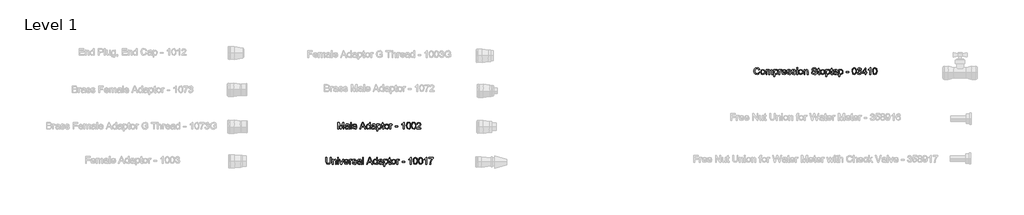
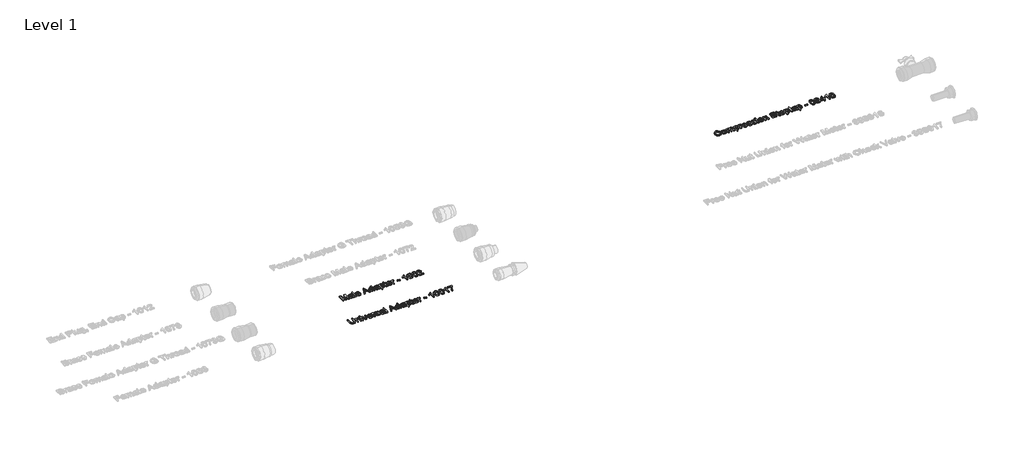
# One storey, part 11 of 13: 3 proxies.
"""IFC4 building model written with IfcOpenShell, lengths in millimetres."""

from ifc_helpers import new_model, si_unit, origin, origin_with_axes, place, context, project, spatial, polyline, outline, extrude, element, save

model = new_model("IFC4")

# Units and contexts
model_context = context("Model", 3, world=origin())
ifc_project = project(units=[si_unit("LENGTHUNIT", "METRE", prefix="MILLI")], contexts=[model_context])

# Site, building, storey
site = spatial("IfcSite", under=ifc_project)
building = spatial("IfcBuilding", under=site)
storey = spatial("IfcBuildingStorey", under=building, Name="Level 1", Elevation=0.0)

# Proxies
placement = place(None, origin())
element("IfcBuildingElementProxy", 1, Name="30 mm Arial", ObjectType="30 mm Arial", at=placement, inside=storey, context=model_context, shape_type="SweptSolid", body=[
    extrude(outline(polyline([(18620.8227945, 4850.7884236), (18624.5151022, 4849.8365005), (18620.1376983, 4842.3905871), (18612.4069291, 4839.8268851), (18604.7230349, 4841.766789), (18600.2158233, 4847.3845775), (18598.6689483, 4855.2812121), (18600.4177464, 4863.3076544), (18605.3901022, 4868.5107794), (18612.486256, 4870.2884236), (18619.8816887, 4867.9879428), (18624.0535637, 4861.5119813), (18620.361256, 4860.6321736), (18617.3324099, 4865.1718371), (18612.3420253, 4866.5961159), (18606.565583, 4865.016789), (18603.3023618, 4860.7764044), (18602.361256, 4855.2884236), (18603.4754387, 4848.9278467), (18606.9441887, 4844.8641448), (18612.0391407, 4843.5191928), (18617.689381, 4845.3509236), (18620.8227945, 4850.7884236)])), origin_with_axes(), (0.0, 0.0, 1.0), 5.0),
    extrude(outline(polyline([(18628.2074099, 4851.1345775), (18631.4021214, 4860.0408275), (18637.9069291, 4862.4422698), (18644.8840926, 4859.5179909), (18647.5920253, 4851.4374621), (18646.3949099, 4844.8677505), (18642.908131, 4841.1502025), (18637.9069291, 4839.8268851), (18630.8864964, 4842.7403467), (18628.2074099, 4851.1345775)]), holes=[polyline([(18631.8997176, 4851.141789), (18633.6088522, 4845.4194332), (18637.9069291, 4843.5191928), (18642.190583, 4845.4302505), (18643.8997176, 4851.2571736), (18642.1797657, 4856.8497217), (18637.9069291, 4858.7499621), (18633.6088522, 4856.8569332), (18631.8997176, 4851.141789)])]), origin_with_axes(), (0.0, 0.0, 1.0), 5.0),
    extrude(outline(polyline([(18651.7458714, 4840.2884236), (18651.7458714, 4861.9807313), (18655.4381791, 4861.9807313), (18655.4381791, 4858.4110198), (18657.9766407, 4861.3352986), (18661.5896214, 4862.4422698), (18665.2891407, 4861.313664), (18667.3227945, 4858.1514044), (18673.8420253, 4862.4422698), (18678.6701503, 4860.657414), (18680.361256, 4855.1586159), (18680.361256, 4840.2884236), (18676.6689483, 4840.2884236), (18676.6689483, 4853.5720775), (18676.3264003, 4856.6550101), (18675.0860157, 4858.173039), (18672.9766407, 4858.7499621), (18669.345631, 4857.2715967), (18667.8997176, 4852.5336159), (18667.8997176, 4840.2884236), (18664.2074099, 4840.2884236), (18664.2074099, 4853.9831351), (18663.3528426, 4857.5600582), (18660.5511599, 4858.7499621), (18657.8179868, 4857.9566928), (18656.0006791, 4855.6345775), (18655.4381791, 4851.2283275), (18655.4381791, 4840.2884236), (18651.7458714, 4840.2884236)])), origin_with_axes(), (0.0, 0.0, 1.0), 5.0),
    extrude(outline(polyline([(18685.8997176, 4831.9807313), (18685.8997176, 4861.9807313), (18689.5920253, 4861.9807313), (18689.5920253, 4858.360539), (18692.1449099, 4861.4218371), (18695.5920253, 4862.4422698), (18700.2723137, 4861.0143851), (18703.330006, 4856.9903467), (18704.361256, 4851.3004428), (18703.1965926, 4845.3184717), (18699.814381, 4841.2439525), (18695.1449099, 4839.8268851), (18691.9321695, 4840.7752025), (18689.5920253, 4843.173039), (18689.5920253, 4831.9807313), (18685.8997176, 4831.9807313)]), holes=[polyline([(18689.5920253, 4850.9615005), (18691.189381, 4845.3365005), (18695.065583, 4843.5191928), (18699.0211118, 4845.4014044), (18700.6689483, 4851.235539), (18699.0607753, 4856.8749621), (18695.2170253, 4858.7499621), (18691.2975541, 4856.7559717), (18689.5920253, 4850.9615005)])]), origin_with_axes(), (0.0, 0.0, 1.0), 5.0),
    extrude(outline(polyline([(18708.5151022, 4840.2884236), (18708.5151022, 4861.9807313), (18711.7458714, 4861.9807313), (18711.7458714, 4858.7715967), (18714.0391407, 4861.7283275), (18716.346833, 4862.4422698), (18720.0535637, 4861.3028467), (18718.8203907, 4857.9927505), (18716.2242368, 4858.7499621), (18714.1364964, 4858.0215967), (18712.8059676, 4856.0023659), (18712.2074099, 4851.6898659), (18712.2074099, 4840.2884236), (18708.5151022, 4840.2884236)])), origin_with_axes(), (0.0, 0.0, 1.0), 5.0),
    extrude(outline(polyline([(18737.548756, 4846.7499621), (18741.1689483, 4846.2884236), (18737.783131, 4841.5215967), (18731.4766407, 4839.8268851), (18723.8107753, 4842.751164), (18720.9766407, 4850.954289), (18723.8396214, 4859.4278467), (18731.267506, 4862.4422698), (18738.4826503, 4859.4350582), (18741.284333, 4850.9759236), (18724.6689483, 4849.9807313), (18726.7927464, 4845.1850582), (18731.548756, 4843.5191928), (18735.1689483, 4844.2908275), (18737.548756, 4846.7499621)]), holes=[polyline([(18724.6689483, 4853.673039), (18737.5920253, 4853.673039), (18736.1136599, 4857.0191928), (18731.253083, 4858.7499621), (18726.706208, 4857.3689525), (18724.6689483, 4853.673039)])]), origin_with_axes(), (0.0, 0.0, 1.0), 5.0),
    extrude(outline(polyline([(18743.5920253, 4846.7499621), (18747.284333, 4847.2115005), (18748.9934676, 4844.4711159), (18752.909333, 4843.5191928), (18756.673756, 4844.391789), (18757.8997176, 4846.4398659), (18756.6665445, 4848.0985198), (18752.8660637, 4849.1514044), (18747.3059676, 4850.9578948), (18744.8792849, 4853.0672698), (18744.0535637, 4856.0456351), (18744.7170253, 4858.7968371), (18746.5271214, 4860.8990005), (18748.8744772, 4861.9915486), (18752.0511599, 4862.4422698), (18756.5439483, 4861.7175101), (18759.3997176, 4859.7559717), (18760.6689483, 4856.4422698), (18756.9766407, 4855.9807313), (18755.5884195, 4858.0179909), (18752.3396214, 4858.7499621), (18748.8059676, 4858.0504428), (18747.7458714, 4856.4206351), (18749.5631791, 4854.5312121), (18752.7434676, 4853.7451544), (18758.1629387, 4852.0071736), (18760.6797657, 4850.0384236), (18761.5920253, 4846.829289), (18760.5211118, 4843.2956351), (18757.4309676, 4840.7319332), (18752.8588522, 4839.8268851), (18746.4189483, 4841.5720775), (18743.5920253, 4846.7499621)])), origin_with_axes(), (0.0, 0.0, 1.0), 5.0),
    extrude(outline(polyline([(18764.361256, 4846.7499621), (18768.0535637, 4847.2115005), (18769.7626983, 4844.4711159), (18773.6785637, 4843.5191928), (18777.4429868, 4844.391789), (18778.6689483, 4846.4398659), (18777.4357753, 4848.0985198), (18773.6352945, 4849.1514044), (18768.0751983, 4850.9578948), (18765.6485157, 4853.0672698), (18764.8227945, 4856.0456351), (18765.486256, 4858.7968371), (18767.2963522, 4860.8990005), (18769.643708, 4861.9915486), (18772.8203907, 4862.4422698), (18777.3131791, 4861.7175101), (18780.1689483, 4859.7559717), (18781.4381791, 4856.4422698), (18777.7458714, 4855.9807313), (18776.3576503, 4858.0179909), (18773.1088522, 4858.7499621), (18769.5751983, 4858.0504428), (18768.5151022, 4856.4206351), (18770.3324099, 4854.5312121), (18773.5126983, 4853.7451544), (18778.9321695, 4852.0071736), (18781.4489964, 4850.0384236), (18782.361256, 4846.829289), (18781.2903426, 4843.2956351), (18778.2001983, 4840.7319332), (18773.628083, 4839.8268851), (18767.1881791, 4841.5720775), (18764.361256, 4846.7499621)])), origin_with_axes(), (0.0, 0.0, 1.0), 5.0),
    extrude(outline(polyline([(18786.5151022, 4866.1345775), (18786.5151022, 4869.8268851), (18790.2074099, 4869.8268851), (18790.2074099, 4866.1345775), (18786.5151022, 4866.1345775)])), origin_with_axes(), (0.0, 0.0, 1.0), 5.0),
    extrude(outline(polyline([(18786.5151022, 4840.2884236), (18786.5151022, 4861.9807313), (18790.2074099, 4861.9807313), (18790.2074099, 4840.2884236), (18786.5151022, 4840.2884236)])), origin_with_axes(), (0.0, 0.0, 1.0), 5.0),
    extrude(outline(polyline([(18794.8227945, 4851.1345775), (18798.017506, 4860.0408275), (18804.5223137, 4862.4422698), (18811.4994772, 4859.5179909), (18814.2074099, 4851.4374621), (18813.0102945, 4844.8677505), (18809.5235157, 4841.1502025), (18804.5223137, 4839.8268851), (18797.501881, 4842.7403467), (18794.8227945, 4851.1345775)]), holes=[polyline([(18798.5151022, 4851.141789), (18800.2242368, 4845.4194332), (18804.5223137, 4843.5191928), (18808.8059676, 4845.4302505), (18810.5151022, 4851.2571736), (18808.7951503, 4856.8497217), (18804.5223137, 4858.7499621), (18800.2242368, 4856.8569332), (18798.5151022, 4851.141789)])]), origin_with_axes(), (0.0, 0.0, 1.0), 5.0),
    extrude(outline(polyline([(18818.361256, 4840.2884236), (18818.361256, 4861.9807313), (18822.0535637, 4861.9807313), (18822.0535637, 4858.9518851), (18828.7314483, 4862.4422698), (18832.2182272, 4861.7391448), (18834.5980349, 4859.8929909), (18835.705006, 4857.1778467), (18835.8997176, 4853.6081351), (18835.8997176, 4840.2884236), (18832.2074099, 4840.2884236), (18832.2074099, 4853.110539), (18831.7819291, 4856.3773659), (18830.2783233, 4858.1045294), (18827.7434676, 4858.7499621), (18823.737458, 4857.3004428), (18822.0535637, 4851.798039), (18822.0535637, 4840.2884236), (18818.361256, 4840.2884236)])), origin_with_axes(), (0.0, 0.0, 1.0), 5.0),
    extrude(outline(polyline([(18851.5920253, 4850.4422698), (18855.284333, 4850.4422698), (18856.4742368, 4846.7463563), (18859.3804868, 4844.4098178), (18863.8083714, 4843.5191928), (18867.6665445, 4844.1934717), (18870.158131, 4846.0468371), (18870.9766407, 4848.5240005), (18870.3636599, 4850.8280871), (18867.8540445, 4852.5047698), (18862.4778426, 4853.9146255), (18856.690583, 4855.735539), (18853.549958, 4858.4831351), (18852.5151022, 4862.1538082), (18853.7951503, 4866.3328948), (18857.534333, 4869.282414), (18863.0078907, 4870.2884236), (18868.8492368, 4869.235539), (18872.7434676, 4866.141789), (18874.2074099, 4861.5191928), (18870.5151022, 4861.5191928), (18868.423756, 4865.3124621), (18863.1521214, 4866.5961159), (18857.8660637, 4865.3268851), (18856.2074099, 4862.2619813), (18857.3828907, 4859.7018851), (18863.4117368, 4857.6393851), (18869.9453907, 4855.7860198), (18873.518708, 4852.7932313), (18874.6689483, 4848.6177505), (18873.345631, 4844.2006832), (18869.5379387, 4840.9771255), (18863.9526022, 4839.8268851), (18857.3576503, 4841.0672698), (18853.1857753, 4844.8028467), (18851.5920253, 4850.4422698)])), origin_with_axes(), (0.0, 0.0, 1.0), 5.0),
    extrude(outline(polyline([(18887.5920253, 4843.3677505), (18888.0535637, 4840.1802505), (18885.2915445, 4839.8268851), (18882.1977945, 4840.4398659), (18880.6545253, 4842.048039), (18880.2074099, 4846.2379428), (18880.2074099, 4858.2884236), (18877.4381791, 4858.2884236), (18877.4381791, 4861.9807313), (18880.2074099, 4861.9807313), (18880.2074099, 4867.2523659), (18883.8997176, 4869.423039), (18883.8997176, 4861.9807313), (18887.5920253, 4861.9807313), (18887.5920253, 4858.2884236), (18883.8997176, 4858.2884236), (18883.8997176, 4846.3461159), (18884.0944291, 4844.4422698), (18887.5920253, 4843.3677505)])), origin_with_axes(), (0.0, 0.0, 1.0), 5.0),
    extrude(outline(polyline([(18890.361256, 4851.1345775), (18893.5559676, 4860.0408275), (18900.0607753, 4862.4422698), (18907.0379387, 4859.5179909), (18909.7458714, 4851.4374621), (18908.548756, 4844.8677505), (18905.0619772, 4841.1502025), (18900.0607753, 4839.8268851), (18893.0403426, 4842.7403467), (18890.361256, 4851.1345775)]), holes=[polyline([(18894.0535637, 4851.141789), (18895.7626983, 4845.4194332), (18900.0607753, 4843.5191928), (18904.3444291, 4845.4302505), (18906.0535637, 4851.2571736), (18904.3336118, 4856.8497217), (18900.0607753, 4858.7499621), (18895.7626983, 4856.8569332), (18894.0535637, 4851.141789)])]), origin_with_axes(), (0.0, 0.0, 1.0), 5.0),
    extrude(outline(polyline([(18913.8997176, 4831.9807313), (18913.8997176, 4861.9807313), (18917.5920253, 4861.9807313), (18917.5920253, 4858.360539), (18920.1449099, 4861.4218371), (18923.5920253, 4862.4422698), (18928.2723137, 4861.0143851), (18931.330006, 4856.9903467), (18932.361256, 4851.3004428), (18931.1965926, 4845.3184717), (18927.814381, 4841.2439525), (18923.1449099, 4839.8268851), (18919.9321695, 4840.7752025), (18917.5920253, 4843.173039), (18917.5920253, 4831.9807313), (18913.8997176, 4831.9807313)]), holes=[polyline([(18917.5920253, 4850.9615005), (18919.189381, 4845.3365005), (18923.065583, 4843.5191928), (18927.0211118, 4845.4014044), (18928.6689483, 4851.235539), (18927.0607753, 4856.8749621), (18923.2170253, 4858.7499621), (18919.2975541, 4856.7559717), (18917.5920253, 4850.9615005)])]), origin_with_axes(), (0.0, 0.0, 1.0), 5.0),
    extrude(outline(polyline([(18944.361256, 4843.3677505), (18944.8227945, 4840.1802505), (18942.0607753, 4839.8268851), (18938.9670253, 4840.4398659), (18937.423756, 4842.048039), (18936.9766407, 4846.2379428), (18936.9766407, 4858.2884236), (18934.2074099, 4858.2884236), (18934.2074099, 4861.9807313), (18936.9766407, 4861.9807313), (18936.9766407, 4867.2523659), (18940.6689483, 4869.423039), (18940.6689483, 4861.9807313), (18944.361256, 4861.9807313), (18944.361256, 4858.2884236), (18940.6689483, 4858.2884236), (18940.6689483, 4846.3461159), (18940.8636599, 4844.4422698), (18944.361256, 4843.3677505)])), origin_with_axes(), (0.0, 0.0, 1.0), 5.0),
    extrude(outline(polyline([(18961.8997176, 4843.0576544), (18958.3191887, 4840.5552505), (18954.3636599, 4839.8268851), (18949.001881, 4841.579289), (18947.1304868, 4846.0576544), (18947.8372176, 4848.9783275), (18949.6941887, 4851.0985198), (18952.2795253, 4852.3100582), (18955.4742368, 4852.8653467), (18961.878083, 4854.1345775), (18960.8828907, 4857.6826544), (18956.8011599, 4858.7499621), (18953.065583, 4858.0396255), (18951.284333, 4855.5191928), (18947.5920253, 4855.9807313), (18949.189381, 4859.5865005), (18952.4057272, 4861.6994813), (18957.2771214, 4862.4422698), (18961.751881, 4861.7860198), (18964.2795253, 4860.1381832), (18965.4117368, 4857.6321736), (18965.5920253, 4854.4014044), (18965.5920253, 4849.8076544), (18965.7795253, 4843.3929909), (18966.5151022, 4840.2884236), (18962.8227945, 4840.2884236), (18961.8997176, 4843.0576544)]), holes=[polyline([(18961.8889003, 4849.9194332), (18955.9429868, 4849.3100582), (18952.7663041, 4848.7115005), (18951.3276022, 4847.7379428), (18951.9225541, 4844.3196736), (18955.1497176, 4843.5191928), (18958.8852945, 4844.4026063), (18961.2939483, 4846.5408275), (18961.8889003, 4849.9194332)])]), origin_with_axes(), (0.0, 0.0, 1.0), 5.0),
    extrude(outline(polyline([(18970.6689483, 4831.9807313), (18970.6689483, 4861.9807313), (18974.361256, 4861.9807313), (18974.361256, 4858.360539), (18976.9141407, 4861.4218371), (18980.361256, 4862.4422698), (18985.0415445, 4861.0143851), (18988.0992368, 4856.9903467), (18989.1304868, 4851.3004428), (18987.9658233, 4845.3184717), (18984.5836118, 4841.2439525), (18979.9141407, 4839.8268851), (18976.7014003, 4840.7752025), (18974.361256, 4843.173039), (18974.361256, 4831.9807313), (18970.6689483, 4831.9807313)]), holes=[polyline([(18974.361256, 4850.9615005), (18975.9586118, 4845.3365005), (18979.8348137, 4843.5191928), (18983.7903426, 4845.4014044), (18985.4381791, 4851.235539), (18983.830006, 4856.8749621), (18979.986256, 4858.7499621), (18976.0667849, 4856.7559717), (18974.361256, 4850.9615005)])]), origin_with_axes(), (0.0, 0.0, 1.0), 5.0),
    extrude(outline(polyline([(19002.9766407, 4849.0576544), (19002.9766407, 4852.7499621), (19014.5151022, 4852.7499621), (19014.5151022, 4849.0576544), (19002.9766407, 4849.0576544)])), origin_with_axes(), (0.0, 0.0, 1.0), 5.0),
    extrude(outline(polyline([(19029.284333, 4854.8196736), (19030.3696695, 4863.3184717), (19033.5932272, 4868.2187121), (19038.9766407, 4869.8268851), (19043.2891407, 4868.8749621), (19046.267506, 4866.1309717), (19047.9982753, 4861.7607794), (19048.6689483, 4854.8196736), (19047.5944291, 4846.3569332), (19044.3816887, 4841.4458755), (19038.9766407, 4839.8268851), (19032.2266407, 4842.6393851), (19029.284333, 4854.8196736)]), holes=[polyline([(19032.9766407, 4854.8268851), (19034.7074099, 4845.657414), (19038.9766407, 4843.5191928), (19043.2458714, 4845.6646255), (19044.9766407, 4854.8268851), (19043.3035637, 4863.891789), (19038.9333714, 4866.1345775), (19034.7651022, 4864.1586159), (19032.9766407, 4854.8268851)])]), origin_with_axes(), (0.0, 0.0, 1.0), 5.0),
    extrude(outline(polyline([(19051.8997176, 4848.1345775), (19055.5920253, 4848.5961159), (19057.6292849, 4844.7090967), (19061.440583, 4843.5191928), (19065.9261599, 4845.1562121), (19067.5920253, 4849.2090967), (19065.940583, 4853.0276063), (19061.7434676, 4854.5384236), (19059.1545253, 4854.1345775), (19059.565583, 4857.8268851), (19064.346833, 4858.8437121), (19066.2074099, 4862.1033275), (19064.8588522, 4864.9915486), (19061.3828907, 4866.1345775), (19057.8636599, 4864.9807313), (19056.0535637, 4861.5191928), (19052.361256, 4861.9807313), (19055.3828907, 4867.7715967), (19061.253083, 4869.8268851), (19065.706208, 4868.813664), (19068.8215926, 4866.0444332), (19069.8997176, 4862.3196736), (19068.8756791, 4858.9158275), (19065.846833, 4856.4711159), (19069.8708714, 4853.9470775), (19071.284333, 4849.1441928), (19068.4574099, 4842.5384236), (19061.3107753, 4839.8268851), (19054.8348137, 4842.141789), (19051.8997176, 4848.1345775)])), origin_with_axes(), (0.0, 0.0, 1.0), 5.0),
    extrude(outline(polyline([(19086.5151022, 4840.2884236), (19086.5151022, 4847.2115005), (19073.1304868, 4847.2115005), (19073.1304868, 4850.9038082), (19087.4381791, 4869.3653467), (19090.2074099, 4869.3653467), (19090.2074099, 4850.9038082), (19093.8997176, 4850.9038082), (19093.8997176, 4847.2115005), (19090.2074099, 4847.2115005), (19090.2074099, 4840.2884236), (19086.5151022, 4840.2884236)]), holes=[polyline([(19086.5151022, 4850.9038082), (19086.5151022, 4862.3124621), (19077.673756, 4850.9038082), (19086.5151022, 4850.9038082)])]), origin_with_axes(), (0.0, 0.0, 1.0), 5.0),
    extrude(outline(polyline([(19110.9766407, 4840.2884236), (19107.284333, 4840.2884236), (19107.284333, 4863.3076544), (19103.7867368, 4860.8160678), (19099.8997176, 4858.9518851), (19099.8997176, 4862.4422698), (19105.3119772, 4865.8965967), (19108.596833, 4869.8268851), (19110.9766407, 4869.8268851), (19110.9766407, 4840.2884236)])), origin_with_axes(), (0.0, 0.0, 1.0), 5.0),
    extrude(outline(polyline([(19119.7458714, 4854.8196736), (19120.831208, 4863.3184717), (19124.0547657, 4868.2187121), (19129.4381791, 4869.8268851), (19133.7506791, 4868.8749621), (19136.7290445, 4866.1309717), (19138.4598137, 4861.7607794), (19139.1304868, 4854.8196736), (19138.0559676, 4846.3569332), (19134.8432272, 4841.4458755), (19129.4381791, 4839.8268851), (19122.6881791, 4842.6393851), (19119.7458714, 4854.8196736)]), holes=[polyline([(19123.4381791, 4854.8268851), (19125.1689483, 4845.657414), (19129.4381791, 4843.5191928), (19133.7074099, 4845.6646255), (19135.4381791, 4854.8268851), (19133.7651022, 4863.891789), (19129.3949099, 4866.1345775), (19125.2266407, 4864.1586159), (19123.4381791, 4854.8268851)])]), origin_with_axes(), (0.0, 0.0, 1.0), 5.0),
])
element("IfcBuildingElementProxy", 2, Name="30 mm Arial", ObjectType="30 mm Arial", at=placement, inside=storey, context=model_context, shape_type="SweptSolid", body=[
    extrude(outline(polyline([(16771.7475855, 4600.4203685), (16771.7475855, 4629.9588301), (16778.1009508, 4629.9588301), (16784.1442201, 4609.1391185), (16785.3629701, 4604.7905608), (16786.6826816, 4609.4996954), (16792.6249893, 4629.9588301), (16798.9783547, 4629.9588301), (16798.9783547, 4600.4203685), (16795.286047, 4600.4203685), (16795.286047, 4626.2665224), (16787.8653739, 4600.4203685), (16782.8605662, 4600.4203685), (16775.4398932, 4626.2665224), (16775.4398932, 4600.4203685), (16771.7475855, 4600.4203685)])), origin_with_axes(), (0.0, 0.0, 1.0), 5.0),
    extrude(outline(polyline([(16818.8245085, 4603.1895993), (16815.2439797, 4600.6871954), (16811.2884508, 4599.9588301), (16805.926672, 4601.7112339), (16804.0552778, 4606.1895993), (16804.7620085, 4609.1102724), (16806.6189797, 4611.2304647), (16809.2043162, 4612.4420031), (16812.3990278, 4612.9972916), (16818.8028739, 4614.2665224), (16817.8076816, 4617.8145993), (16813.7259508, 4618.881907), (16809.9903739, 4618.1715704), (16808.2091239, 4615.6511378), (16804.5168162, 4616.1126762), (16806.114172, 4619.7184454), (16809.3305182, 4621.8314262), (16814.2019124, 4622.5742147), (16818.676672, 4621.9179647), (16821.2043162, 4620.2701281), (16822.3365278, 4617.7641185), (16822.5168162, 4614.5333493), (16822.5168162, 4609.9395993), (16822.7043162, 4603.5249358), (16823.4398932, 4600.4203685), (16819.7475855, 4600.4203685), (16818.8245085, 4603.1895993)]), holes=[polyline([(16818.8136912, 4610.0513781), (16812.8677778, 4609.4420031), (16809.6910951, 4608.8434454), (16808.2523932, 4607.8698878), (16808.8473451, 4604.4516185), (16812.0745085, 4603.6511378), (16815.8100855, 4604.5345512), (16818.2187393, 4606.6727724), (16818.8136912, 4610.0513781)])]), origin_with_axes(), (0.0, 0.0, 1.0), 5.0),
    extrude(outline(polyline([(16827.5937393, 4600.4203685), (16827.5937393, 4629.9588301), (16831.286047, 4629.9588301), (16831.286047, 4600.4203685), (16827.5937393, 4600.4203685)])), origin_with_axes(), (0.0, 0.0, 1.0), 5.0),
    extrude(outline(polyline([(16852.0120085, 4606.881907), (16855.6322008, 4606.4203685), (16852.2463835, 4601.6535416), (16845.9398932, 4599.9588301), (16838.2740278, 4602.8831089), (16835.4398932, 4611.0862339), (16838.3028739, 4619.5597916), (16845.7307585, 4622.5742147), (16852.9459028, 4619.5670031), (16855.7475855, 4611.1078685), (16839.1322008, 4610.1126762), (16841.2559989, 4605.3170031), (16846.0120085, 4603.6511378), (16849.6322008, 4604.4227724), (16852.0120085, 4606.881907)]), holes=[polyline([(16839.1322008, 4613.8049839), (16852.0552778, 4613.8049839), (16850.5769124, 4617.1511378), (16845.7163355, 4618.881907), (16841.1694605, 4617.5008974), (16839.1322008, 4613.8049839)])]), origin_with_axes(), (0.0, 0.0, 1.0), 5.0),
    extrude(outline(polyline([(16867.9999893, 4600.4203685), (16879.7908547, 4629.9588301), (16882.9350855, 4629.9588301), (16894.7259508, 4600.4203685), (16890.8245085, 4600.4203685), (16887.442297, 4609.6511378), (16875.2764316, 4609.6511378), (16871.9014316, 4600.4203685), (16867.9999893, 4600.4203685)]), holes=[polyline([(16876.6322008, 4613.3434454), (16886.0937393, 4613.3434454), (16883.4326816, 4620.6054647), (16881.3629701, 4626.2665224), (16879.5240278, 4621.2400801), (16876.6322008, 4613.3434454)])]), origin_with_axes(), (0.0, 0.0, 1.0), 5.0),
    extrude(outline(polyline([(16911.5937393, 4600.4203685), (16911.5937393, 4603.9035416), (16905.7740278, 4599.9588301), (16901.2019124, 4601.3867147), (16897.9711432, 4605.3710897), (16896.8245085, 4611.2448878), (16897.8809989, 4617.1222916), (16901.0468643, 4621.1679647), (16905.7596047, 4622.5742147), (16909.1634508, 4621.5682051), (16911.5937393, 4618.9540224), (16911.5937393, 4629.9588301), (16915.286047, 4629.9588301), (16915.286047, 4600.4203685), (16911.5937393, 4600.4203685)]), holes=[polyline([(16900.5168162, 4611.2593108), (16902.1826816, 4605.5441666), (16906.1129701, 4603.6511378), (16909.9963835, 4605.4576281), (16911.5937393, 4610.9780608), (16909.9675374, 4616.9708493), (16905.9615278, 4618.881907), (16902.0745085, 4617.0465704), (16900.5168162, 4611.2593108)])]), origin_with_axes(), (0.0, 0.0, 1.0), 5.0),
    extrude(outline(polyline([(16934.6706624, 4603.1895993), (16931.0901335, 4600.6871954), (16927.1346047, 4599.9588301), (16921.7728258, 4601.7112339), (16919.9014316, 4606.1895993), (16920.6081624, 4609.1102724), (16922.4651335, 4611.2304647), (16925.0504701, 4612.4420031), (16928.2451816, 4612.9972916), (16934.6490278, 4614.2665224), (16933.6538355, 4617.8145993), (16929.5721047, 4618.881907), (16925.8365278, 4618.1715704), (16924.0552778, 4615.6511378), (16920.3629701, 4616.1126762), (16921.9603258, 4619.7184454), (16925.176672, 4621.8314262), (16930.0480662, 4622.5742147), (16934.5228258, 4621.9179647), (16937.0504701, 4620.2701281), (16938.1826816, 4617.7641185), (16938.3629701, 4614.5333493), (16938.3629701, 4609.9395993), (16938.5504701, 4603.5249358), (16939.286047, 4600.4203685), (16935.5937393, 4600.4203685), (16934.6706624, 4603.1895993)]), holes=[polyline([(16934.6598451, 4610.0513781), (16928.7139316, 4609.4420031), (16925.5372489, 4608.8434454), (16924.098547, 4607.8698878), (16924.6934989, 4604.4516185), (16927.9206624, 4603.6511378), (16931.6562393, 4604.5345512), (16934.0648932, 4606.6727724), (16934.6598451, 4610.0513781)])]), origin_with_axes(), (0.0, 0.0, 1.0), 5.0),
    extrude(outline(polyline([(16943.4398932, 4592.1126762), (16943.4398932, 4622.1126762), (16947.1322008, 4622.1126762), (16947.1322008, 4618.4924839), (16949.6850855, 4621.553782), (16953.1322008, 4622.5742147), (16957.8124893, 4621.1463301), (16960.8701816, 4617.1222916), (16961.9014316, 4611.4323878), (16960.7367682, 4605.4504166), (16957.3545566, 4601.3758974), (16952.6850855, 4599.9588301), (16949.4723451, 4600.9071474), (16947.1322008, 4603.3049839), (16947.1322008, 4592.1126762), (16943.4398932, 4592.1126762)]), holes=[polyline([(16947.1322008, 4611.0934454), (16948.7295566, 4605.4684454), (16952.6057585, 4603.6511378), (16956.5612874, 4605.5333493), (16958.2091239, 4611.3674839), (16956.6009508, 4617.006907), (16952.7572008, 4618.881907), (16948.8377297, 4616.8879166), (16947.1322008, 4611.0934454)])]), origin_with_axes(), (0.0, 0.0, 1.0), 5.0),
    extrude(outline(polyline([(16973.9014316, 4603.4996954), (16974.3629701, 4600.3121954), (16971.6009508, 4599.9588301), (16968.5072008, 4600.5718108), (16966.9639316, 4602.1799839), (16966.5168162, 4606.3698878), (16966.5168162, 4618.4203685), (16963.7475855, 4618.4203685), (16963.7475855, 4622.1126762), (16966.5168162, 4622.1126762), (16966.5168162, 4627.3843108), (16970.2091239, 4629.5549839), (16970.2091239, 4622.1126762), (16973.9014316, 4622.1126762), (16973.9014316, 4618.4203685), (16970.2091239, 4618.4203685), (16970.2091239, 4606.4780608), (16970.4038355, 4604.5742147), (16973.9014316, 4603.4996954)])), origin_with_axes(), (0.0, 0.0, 1.0), 5.0),
    extrude(outline(polyline([(16976.6706624, 4611.2665224), (16979.8653739, 4620.1727724), (16986.3701816, 4622.5742147), (16993.3473451, 4619.6499358), (16996.0552778, 4611.569407), (16994.8581624, 4604.9996954), (16991.3713835, 4601.2821474), (16986.3701816, 4599.9588301), (16979.3497489, 4602.8722916), (16976.6706624, 4611.2665224)]), holes=[polyline([(16980.3629701, 4611.2737339), (16982.0721047, 4605.5513781), (16986.3701816, 4603.6511378), (16990.6538355, 4605.5621954), (16992.3629701, 4611.3891185), (16990.6430182, 4616.9816666), (16986.3701816, 4618.881907), (16982.0721047, 4616.9888781), (16980.3629701, 4611.2737339)])]), origin_with_axes(), (0.0, 0.0, 1.0), 5.0),
    extrude(outline(polyline([(17000.2091239, 4600.4203685), (17000.2091239, 4622.1126762), (17003.4398932, 4622.1126762), (17003.4398932, 4618.9035416), (17005.7331624, 4621.8602724), (17008.0408547, 4622.5742147), (17011.7475855, 4621.4347916), (17010.5144124, 4618.1246954), (17007.9182585, 4618.881907), (17005.8305182, 4618.1535416), (17004.4999893, 4616.1343108), (17003.9014316, 4611.8218108), (17003.9014316, 4600.4203685), (17000.2091239, 4600.4203685)])), origin_with_axes(), (0.0, 0.0, 1.0), 5.0),
    extrude(outline(polyline([(17023.7475855, 4609.1895993), (17023.7475855, 4612.881907), (17035.286047, 4612.881907), (17035.286047, 4609.1895993), (17023.7475855, 4609.1895993)])), origin_with_axes(), (0.0, 0.0, 1.0), 5.0),
    extrude(outline(polyline([(17063.9014316, 4600.4203685), (17060.2091239, 4600.4203685), (17060.2091239, 4623.4395993), (17056.7115278, 4620.9480128), (17052.8245085, 4619.0838301), (17052.8245085, 4622.5742147), (17058.2367682, 4626.0285416), (17061.5216239, 4629.9588301), (17063.9014316, 4629.9588301), (17063.9014316, 4600.4203685)])), origin_with_axes(), (0.0, 0.0, 1.0), 5.0),
    extrude(outline(polyline([(17072.6706624, 4614.9516185), (17073.7559989, 4623.4504166), (17076.9795566, 4628.350657), (17082.3629701, 4629.9588301), (17086.6754701, 4629.006907), (17089.6538355, 4626.2629166), (17091.3846047, 4621.8927243), (17092.0552778, 4614.9516185), (17090.9807585, 4606.4888781), (17087.7680182, 4601.5778204), (17082.3629701, 4599.9588301), (17075.6129701, 4602.7713301), (17072.6706624, 4614.9516185)]), holes=[polyline([(17076.3629701, 4614.9588301), (17078.0937393, 4605.7893589), (17082.3629701, 4603.6511378), (17086.6322008, 4605.7965704), (17088.3629701, 4614.9588301), (17086.6898932, 4624.0237339), (17082.3197008, 4626.2665224), (17078.1514316, 4624.2905608), (17076.3629701, 4614.9588301)])]), origin_with_axes(), (0.0, 0.0, 1.0), 5.0),
    extrude(outline(polyline([(17095.286047, 4614.9516185), (17096.3713835, 4623.4504166), (17099.5949412, 4628.350657), (17104.9783547, 4629.9588301), (17109.2908547, 4629.006907), (17112.2692201, 4626.2629166), (17113.9999893, 4621.8927243), (17114.6706624, 4614.9516185), (17113.5961432, 4606.4888781), (17110.3834028, 4601.5778204), (17104.9783547, 4599.9588301), (17098.2283547, 4602.7713301), (17095.286047, 4614.9516185)]), holes=[polyline([(17098.9783547, 4614.9588301), (17100.7091239, 4605.7893589), (17104.9783547, 4603.6511378), (17109.2475855, 4605.7965704), (17110.9783547, 4614.9588301), (17109.3052778, 4624.0237339), (17104.9350855, 4626.2665224), (17100.7668162, 4624.2905608), (17098.9783547, 4614.9588301)])]), origin_with_axes(), (0.0, 0.0, 1.0), 5.0),
    extrude(outline(polyline([(17136.8245085, 4604.1126762), (17136.8245085, 4600.4203685), (17117.4398932, 4600.4203685), (17117.8365278, 4602.9660416), (17120.0793162, 4606.8855128), (17124.7019124, 4611.1655608), (17131.0769124, 4617.3170031), (17132.6706624, 4621.4996954), (17131.1670566, 4624.8855128), (17127.2403739, 4626.2665224), (17123.1478258, 4624.9179647), (17121.5937393, 4621.1895993), (17117.9014316, 4621.6511378), (17120.7319605, 4627.8314262), (17127.3197008, 4629.9588301), (17133.9290758, 4627.5934454), (17136.3629701, 4621.7232531), (17135.7067201, 4618.2220512), (17133.5252297, 4614.6018589), (17128.2355662, 4609.5429647), (17123.9879701, 4605.991282), (17122.3221047, 4604.1126762), (17136.8245085, 4604.1126762)])), origin_with_axes(), (0.0, 0.0, 1.0), 5.0),
])
element("IfcBuildingElementProxy", 3, Name="30 mm Arial", ObjectType="30 mm Arial", at=placement, inside=storey, context=model_context, shape_type="SweptSolid", body=[
    extrude(outline(polyline([(16738.286047, 4474.9588301), (16741.9783547, 4474.9588301), (16741.9783547, 4457.9179647), (16740.9759508, 4450.8542628), (16737.3629701, 4446.5994551), (16730.5120085, 4444.9588301), (16723.7656143, 4446.3867147), (16720.0228258, 4450.522532), (16718.9014316, 4457.9179647), (16718.9014316, 4474.9588301), (16722.5937393, 4474.9588301), (16722.5937393, 4458.0477724), (16723.3221047, 4452.4191666), (16725.8245085, 4449.631907), (16730.1658547, 4448.6511378), (16736.4182585, 4450.5910416), (16738.286047, 4458.0477724), (16738.286047, 4474.9588301)])), origin_with_axes(), (0.0, 0.0, 1.0), 5.0),
    extrude(outline(polyline([(16747.9783547, 4445.4203685), (16747.9783547, 4467.1126762), (16751.6706624, 4467.1126762), (16751.6706624, 4464.0838301), (16758.348547, 4467.5742147), (16761.8353258, 4466.8710897), (16764.2151335, 4465.0249358), (16765.3221047, 4462.3097916), (16765.5168162, 4458.7400801), (16765.5168162, 4445.4203685), (16761.8245085, 4445.4203685), (16761.8245085, 4458.2424839), (16761.3990278, 4461.5093108), (16759.895422, 4463.2364743), (16757.3605662, 4463.881907), (16753.3545566, 4462.4323878), (16751.6706624, 4456.9299839), (16751.6706624, 4445.4203685), (16747.9783547, 4445.4203685)])), origin_with_axes(), (0.0, 0.0, 1.0), 5.0),
    extrude(outline(polyline([(16770.5937393, 4471.2665224), (16770.5937393, 4474.9588301), (16774.286047, 4474.9588301), (16774.286047, 4471.2665224), (16770.5937393, 4471.2665224)])), origin_with_axes(), (0.0, 0.0, 1.0), 5.0),
    extrude(outline(polyline([(16770.5937393, 4445.4203685), (16770.5937393, 4467.1126762), (16774.286047, 4467.1126762), (16774.286047, 4445.4203685), (16770.5937393, 4445.4203685)])), origin_with_axes(), (0.0, 0.0, 1.0), 5.0),
    extrude(outline(polyline([(16785.1466239, 4445.4203685), (16777.5168162, 4467.1126762), (16781.4254701, 4467.1126762), (16786.0480662, 4454.1174839), (16787.4398932, 4449.7472916), (16788.8028739, 4453.8722916), (16793.4543162, 4467.1126762), (16797.3629701, 4467.1126762), (16789.8269124, 4445.4203685), (16785.1466239, 4445.4203685)])), origin_with_axes(), (0.0, 0.0, 1.0), 5.0),
    extrude(outline(polyline([(16815.7812393, 4451.881907), (16819.4014316, 4451.4203685), (16816.0156143, 4446.6535416), (16809.7091239, 4444.9588301), (16802.0432585, 4447.8831089), (16799.2091239, 4456.0862339), (16802.0721047, 4464.5597916), (16809.4999893, 4467.5742147), (16816.7151335, 4464.5670031), (16819.5168162, 4456.1078685), (16802.9014316, 4455.1126762), (16805.0252297, 4450.3170031), (16809.7812393, 4448.6511378), (16813.4014316, 4449.4227724), (16815.7812393, 4451.881907)]), holes=[polyline([(16802.9014316, 4458.8049839), (16815.8245085, 4458.8049839), (16814.3461432, 4462.1511378), (16809.4855662, 4463.881907), (16804.9386912, 4462.5008974), (16802.9014316, 4458.8049839)])]), origin_with_axes(), (0.0, 0.0, 1.0), 5.0),
    extrude(outline(polyline([(16823.2091239, 4445.4203685), (16823.2091239, 4467.1126762), (16826.4398932, 4467.1126762), (16826.4398932, 4463.9035416), (16828.7331624, 4466.8602724), (16831.0408547, 4467.5742147), (16834.7475855, 4466.4347916), (16833.5144124, 4463.1246954), (16830.9182585, 4463.881907), (16828.8305182, 4463.1535416), (16827.4999893, 4461.1343108), (16826.9014316, 4456.8218108), (16826.9014316, 4445.4203685), (16823.2091239, 4445.4203685)])), origin_with_axes(), (0.0, 0.0, 1.0), 5.0),
    extrude(outline(polyline([(16835.6706624, 4451.881907), (16839.3629701, 4452.3434454), (16841.0721047, 4449.6030608), (16844.9879701, 4448.6511378), (16848.7523932, 4449.5237339), (16849.9783547, 4451.5718108), (16848.7451816, 4453.2304647), (16844.9447008, 4454.2833493), (16839.3846047, 4456.0898397), (16836.957922, 4458.1992147), (16836.1322008, 4461.1775801), (16836.7956624, 4463.928782), (16838.6057585, 4466.0309454), (16840.9531143, 4467.1234935), (16844.129797, 4467.5742147), (16848.6225855, 4466.8494551), (16851.4783547, 4464.8879166), (16852.7475855, 4461.5742147), (16849.0552778, 4461.1126762), (16847.6670566, 4463.1499358), (16844.4182585, 4463.881907), (16840.8846047, 4463.1823878), (16839.8245085, 4461.5525801), (16841.6418162, 4459.663157), (16844.8221047, 4458.8770993), (16850.2415758, 4457.1391185), (16852.7584028, 4455.1703685), (16853.6706624, 4451.9612339), (16852.5997489, 4448.4275801), (16849.5096047, 4445.8638781), (16844.9374893, 4444.9588301), (16838.4975855, 4446.7040224), (16835.6706624, 4451.881907)])), origin_with_axes(), (0.0, 0.0, 1.0), 5.0),
    extrude(outline(polyline([(16871.6706624, 4448.1895993), (16868.0901335, 4445.6871954), (16864.1346047, 4444.9588301), (16858.7728258, 4446.7112339), (16856.9014316, 4451.1895993), (16857.6081624, 4454.1102724), (16859.4651335, 4456.2304647), (16862.0504701, 4457.4420031), (16865.2451816, 4457.9972916), (16871.6490278, 4459.2665224), (16870.6538355, 4462.8145993), (16866.5721047, 4463.881907), (16862.8365278, 4463.1715704), (16861.0552778, 4460.6511378), (16857.3629701, 4461.1126762), (16858.9603258, 4464.7184454), (16862.176672, 4466.8314262), (16867.0480662, 4467.5742147), (16871.5228258, 4466.9179647), (16874.0504701, 4465.2701281), (16875.1826816, 4462.7641185), (16875.3629701, 4459.5333493), (16875.3629701, 4454.9395993), (16875.5504701, 4448.5249358), (16876.286047, 4445.4203685), (16872.5937393, 4445.4203685), (16871.6706624, 4448.1895993)]), holes=[polyline([(16871.6598451, 4455.0513781), (16865.7139316, 4454.4420031), (16862.5372489, 4453.8434454), (16861.098547, 4452.8698878), (16861.6934989, 4449.4516185), (16864.9206624, 4448.6511378), (16868.6562393, 4449.5345512), (16871.0648932, 4451.6727724), (16871.6598451, 4455.0513781)])]), origin_with_axes(), (0.0, 0.0, 1.0), 5.0),
    extrude(outline(polyline([(16880.4398932, 4445.4203685), (16880.4398932, 4474.9588301), (16884.1322008, 4474.9588301), (16884.1322008, 4445.4203685), (16880.4398932, 4445.4203685)])), origin_with_axes(), (0.0, 0.0, 1.0), 5.0),
    extrude(outline(polyline([(16898.2307585, 4445.4203685), (16910.0216239, 4474.9588301), (16913.1658547, 4474.9588301), (16924.9567201, 4445.4203685), (16921.0552778, 4445.4203685), (16917.6730662, 4454.6511378), (16905.5072008, 4454.6511378), (16902.1322008, 4445.4203685), (16898.2307585, 4445.4203685)]), holes=[polyline([(16906.8629701, 4458.3434454), (16916.3245085, 4458.3434454), (16913.6634508, 4465.6054647), (16911.5937393, 4471.2665224), (16909.754797, 4466.2400801), (16906.8629701, 4458.3434454)])]), origin_with_axes(), (0.0, 0.0, 1.0), 5.0),
    extrude(outline(polyline([(16941.8245085, 4445.4203685), (16941.8245085, 4448.9035416), (16936.004797, 4444.9588301), (16931.4326816, 4446.3867147), (16928.2019124, 4450.3710897), (16927.0552778, 4456.2448878), (16928.1117682, 4462.1222916), (16931.2776335, 4466.1679647), (16935.9903739, 4467.5742147), (16939.3942201, 4466.5682051), (16941.8245085, 4463.9540224), (16941.8245085, 4474.9588301), (16945.5168162, 4474.9588301), (16945.5168162, 4445.4203685), (16941.8245085, 4445.4203685)]), holes=[polyline([(16930.7475855, 4456.2593108), (16932.4134508, 4450.5441666), (16936.3437393, 4448.6511378), (16940.2271528, 4450.4576281), (16941.8245085, 4455.9780608), (16940.1983066, 4461.9708493), (16936.192297, 4463.881907), (16932.3052778, 4462.0465704), (16930.7475855, 4456.2593108)])]), origin_with_axes(), (0.0, 0.0, 1.0), 5.0),
    extrude(outline(polyline([(16964.9014316, 4448.1895993), (16961.3209028, 4445.6871954), (16957.3653739, 4444.9588301), (16952.0035951, 4446.7112339), (16950.1322008, 4451.1895993), (16950.8389316, 4454.1102724), (16952.6959028, 4456.2304647), (16955.2812393, 4457.4420031), (16958.4759508, 4457.9972916), (16964.879797, 4459.2665224), (16963.8846047, 4462.8145993), (16959.8028739, 4463.881907), (16956.067297, 4463.1715704), (16954.286047, 4460.6511378), (16950.5937393, 4461.1126762), (16952.1910951, 4464.7184454), (16955.4074412, 4466.8314262), (16960.2788355, 4467.5742147), (16964.7535951, 4466.9179647), (16967.2812393, 4465.2701281), (16968.4134508, 4462.7641185), (16968.5937393, 4459.5333493), (16968.5937393, 4454.9395993), (16968.7812393, 4448.5249358), (16969.5168162, 4445.4203685), (16965.8245085, 4445.4203685), (16964.9014316, 4448.1895993)]), holes=[polyline([(16964.8906143, 4455.0513781), (16958.9447008, 4454.4420031), (16955.7680182, 4453.8434454), (16954.3293162, 4452.8698878), (16954.9242682, 4449.4516185), (16958.1514316, 4448.6511378), (16961.8870085, 4449.5345512), (16964.2956624, 4451.6727724), (16964.8906143, 4455.0513781)])]), origin_with_axes(), (0.0, 0.0, 1.0), 5.0),
    extrude(outline(polyline([(16973.6706624, 4437.1126762), (16973.6706624, 4467.1126762), (16977.3629701, 4467.1126762), (16977.3629701, 4463.4924839), (16979.9158547, 4466.553782), (16983.3629701, 4467.5742147), (16988.0432585, 4466.1463301), (16991.1009508, 4462.1222916), (16992.1322008, 4456.4323878), (16990.9675374, 4450.4504166), (16987.5853258, 4446.3758974), (16982.9158547, 4444.9588301), (16979.7031143, 4445.9071474), (16977.3629701, 4448.3049839), (16977.3629701, 4437.1126762), (16973.6706624, 4437.1126762)]), holes=[polyline([(16977.3629701, 4456.0934454), (16978.9603258, 4450.4684454), (16982.8365278, 4448.6511378), (16986.7920566, 4450.5333493), (16988.4398932, 4456.3674839), (16986.8317201, 4462.006907), (16982.9879701, 4463.881907), (16979.0684989, 4461.8879166), (16977.3629701, 4456.0934454)])]), origin_with_axes(), (0.0, 0.0, 1.0), 5.0),
    extrude(outline(polyline([(17004.1322008, 4448.4996954), (17004.5937393, 4445.3121954), (17001.8317201, 4444.9588301), (16998.7379701, 4445.5718108), (16997.1947008, 4447.1799839), (16996.7475855, 4451.3698878), (16996.7475855, 4463.4203685), (16993.9783547, 4463.4203685), (16993.9783547, 4467.1126762), (16996.7475855, 4467.1126762), (16996.7475855, 4472.3843108), (17000.4398932, 4474.5549839), (17000.4398932, 4467.1126762), (17004.1322008, 4467.1126762), (17004.1322008, 4463.4203685), (17000.4398932, 4463.4203685), (17000.4398932, 4451.4780608), (17000.6346047, 4449.5742147), (17004.1322008, 4448.4996954)])), origin_with_axes(), (0.0, 0.0, 1.0), 5.0),
    extrude(outline(polyline([(17006.9014316, 4456.2665224), (17010.0961432, 4465.1727724), (17016.6009508, 4467.5742147), (17023.5781143, 4464.6499358), (17026.286047, 4456.569407), (17025.0889316, 4449.9996954), (17021.6021528, 4446.2821474), (17016.6009508, 4444.9588301), (17009.5805182, 4447.8722916), (17006.9014316, 4456.2665224)]), holes=[polyline([(17010.5937393, 4456.2737339), (17012.3028739, 4450.5513781), (17016.6009508, 4448.6511378), (17020.8846047, 4450.5621954), (17022.5937393, 4456.3891185), (17020.8737874, 4461.9816666), (17016.6009508, 4463.881907), (17012.3028739, 4461.9888781), (17010.5937393, 4456.2737339)])]), origin_with_axes(), (0.0, 0.0, 1.0), 5.0),
    extrude(outline(polyline([(17030.4398932, 4445.4203685), (17030.4398932, 4467.1126762), (17033.6706624, 4467.1126762), (17033.6706624, 4463.9035416), (17035.9639316, 4466.8602724), (17038.2716239, 4467.5742147), (17041.9783547, 4466.4347916), (17040.7451816, 4463.1246954), (17038.1490278, 4463.881907), (17036.0612874, 4463.1535416), (17034.7307585, 4461.1343108), (17034.1322008, 4456.8218108), (17034.1322008, 4445.4203685), (17030.4398932, 4445.4203685)])), origin_with_axes(), (0.0, 0.0, 1.0), 5.0),
    extrude(outline(polyline([(17053.9783547, 4454.1895993), (17053.9783547, 4457.881907), (17065.5168162, 4457.881907), (17065.5168162, 4454.1895993), (17053.9783547, 4454.1895993)])), origin_with_axes(), (0.0, 0.0, 1.0), 5.0),
    extrude(outline(polyline([(17094.1322008, 4445.4203685), (17090.4398932, 4445.4203685), (17090.4398932, 4468.4395993), (17086.942297, 4465.9480128), (17083.0552778, 4464.0838301), (17083.0552778, 4467.5742147), (17088.4675374, 4471.0285416), (17091.7523932, 4474.9588301), (17094.1322008, 4474.9588301), (17094.1322008, 4445.4203685)])), origin_with_axes(), (0.0, 0.0, 1.0), 5.0),
    extrude(outline(polyline([(17102.9014316, 4459.9516185), (17103.9867682, 4468.4504166), (17107.2103258, 4473.350657), (17112.5937393, 4474.9588301), (17116.9062393, 4474.006907), (17119.8846047, 4471.2629166), (17121.6153739, 4466.8927243), (17122.286047, 4459.9516185), (17121.2115278, 4451.4888781), (17117.9987874, 4446.5778204), (17112.5937393, 4444.9588301), (17105.8437393, 4447.7713301), (17102.9014316, 4459.9516185)]), holes=[polyline([(17106.5937393, 4459.9588301), (17108.3245085, 4450.7893589), (17112.5937393, 4448.6511378), (17116.8629701, 4450.7965704), (17118.5937393, 4459.9588301), (17116.9206624, 4469.0237339), (17112.5504701, 4471.2665224), (17108.3822008, 4469.2905608), (17106.5937393, 4459.9588301)])]), origin_with_axes(), (0.0, 0.0, 1.0), 5.0),
    extrude(outline(polyline([(17125.5168162, 4459.9516185), (17126.6021528, 4468.4504166), (17129.8257105, 4473.350657), (17135.2091239, 4474.9588301), (17139.5216239, 4474.006907), (17142.4999893, 4471.2629166), (17144.2307585, 4466.8927243), (17144.9014316, 4459.9516185), (17143.8269124, 4451.4888781), (17140.614172, 4446.5778204), (17135.2091239, 4444.9588301), (17128.4591239, 4447.7713301), (17125.5168162, 4459.9516185)]), holes=[polyline([(17129.2091239, 4459.9588301), (17130.9398932, 4450.7893589), (17135.2091239, 4448.6511378), (17139.4783547, 4450.7965704), (17141.2091239, 4459.9588301), (17139.536047, 4469.0237339), (17135.1658547, 4471.2665224), (17130.9975855, 4469.2905608), (17129.2091239, 4459.9588301)])]), origin_with_axes(), (0.0, 0.0, 1.0), 5.0),
    extrude(outline(polyline([(17161.9783547, 4445.4203685), (17158.286047, 4445.4203685), (17158.286047, 4468.4395993), (17154.7884508, 4465.9480128), (17150.9014316, 4464.0838301), (17150.9014316, 4467.5742147), (17156.3136912, 4471.0285416), (17159.598547, 4474.9588301), (17161.9783547, 4474.9588301), (17161.9783547, 4445.4203685)])), origin_with_axes(), (0.0, 0.0, 1.0), 5.0),
    extrude(outline(polyline([(17170.7475855, 4470.8049839), (17170.7475855, 4474.4972916), (17190.1322008, 4474.4972916), (17190.1322008, 4471.5117147), (17184.6334028, 4463.5682051), (17180.4254701, 4453.4468108), (17179.0552778, 4445.4203685), (17175.3629701, 4445.4203685), (17176.8305182, 4453.7496954), (17180.8581624, 4463.1643589), (17186.4398932, 4470.8049839), (17170.7475855, 4470.8049839)])), origin_with_axes(), (0.0, 0.0, 1.0), 5.0),
])

save(model, "model.ifc")
